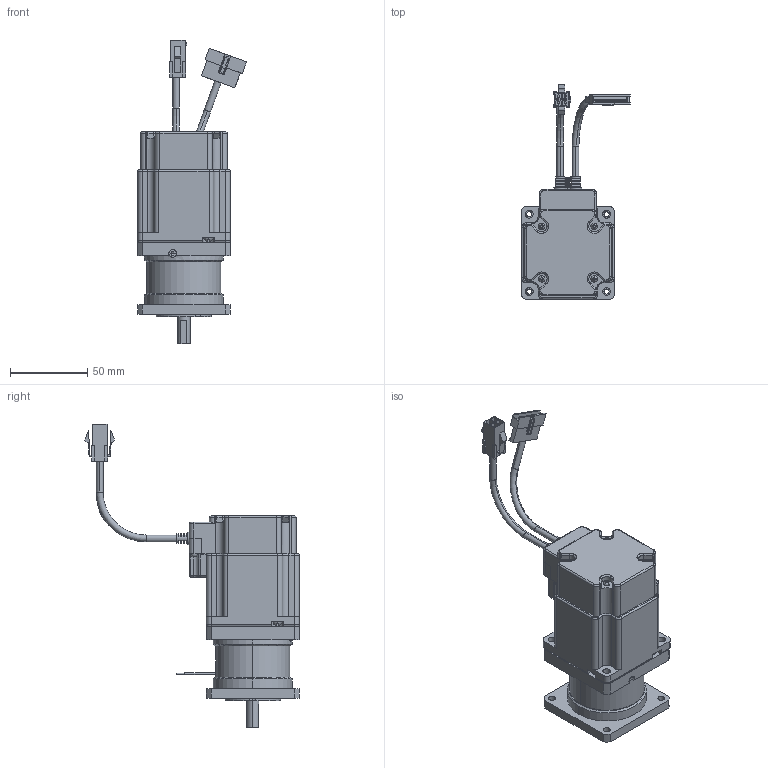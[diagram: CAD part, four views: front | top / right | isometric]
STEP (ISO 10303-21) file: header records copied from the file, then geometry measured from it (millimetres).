
FILE_DESCRIPTION (( 'STEP AP203' ), '1' );
FILE_NAME ('130416 Ezi-SERVO BK-60S.STEP', '2013-04-16T03:41:23', ( '' ), ( '' ), 'SwSTEP 2.0', 'SolidWorks 2012', '' );
FILE_SCHEMA (( 'CONFIG_CONTROL_DESIGN' ));
Length unit declared in the file: metre
Products named in the file (15): 130416 Ezi-SERVO BK-60S; BK60; MainEzM-60S-assembly-1; MainM3-screw10-1-2; MainM3-screw7-1-2; MainM3-screw9-1-2; MainM3-screw8-1-2; MainM3-screw12-1-2; MainM3-screw11-1-2; MainEZSV_60_Encoder_Cover-1-2; MainEZSV_60_Cable_Cover-1-2; Main60_Encoder_Plate-1-2; MainEncoder_Cable_60-1-2; MainPower_Cable_60-1-2; MainEzM-60S-1
Assembly tree (14 placements, depth 3):
  130416 Ezi-SERVO BK-60S
    MainEzM-60S-assembly-1
      MainEzM-60S-1
      MainPower_Cable_60-1-2
      MainEncoder_Cable_60-1-2
      Main60_Encoder_Plate-1-2
      MainEZSV_60_Cable_Cover-1-2
      MainEZSV_60_Encoder_Cover-1-2
      MainM3-screw11-1-2
      MainM3-screw12-1-2
      MainM3-screw8-1-2
      MainM3-screw9-1-2
      MainM3-screw7-1-2
      MainM3-screw10-1-2
    BK60
Bounding box: 70.49 x 138.64 x 196.65 mm (x, y, z)
Volume: 181605.1 mm3; surface area: 81321.2 mm2
Topology: 12 solids, 28 shells, 1136 faces, 3077 edges, 2005 vertices
Faces by surface type: plane 574, cylinder 450, bspline 44, cone 30, sphere 24, torus 14
Entity records: 41918 total; most frequent: CARTESIAN_POINT 11930, DIRECTION 5915, ORIENTED_EDGE 5901, EDGE_CURVE 3017, AXIS2_PLACEMENT_3D 2143, VERTEX_POINT 1985, LINE 1629, VECTOR 1629
